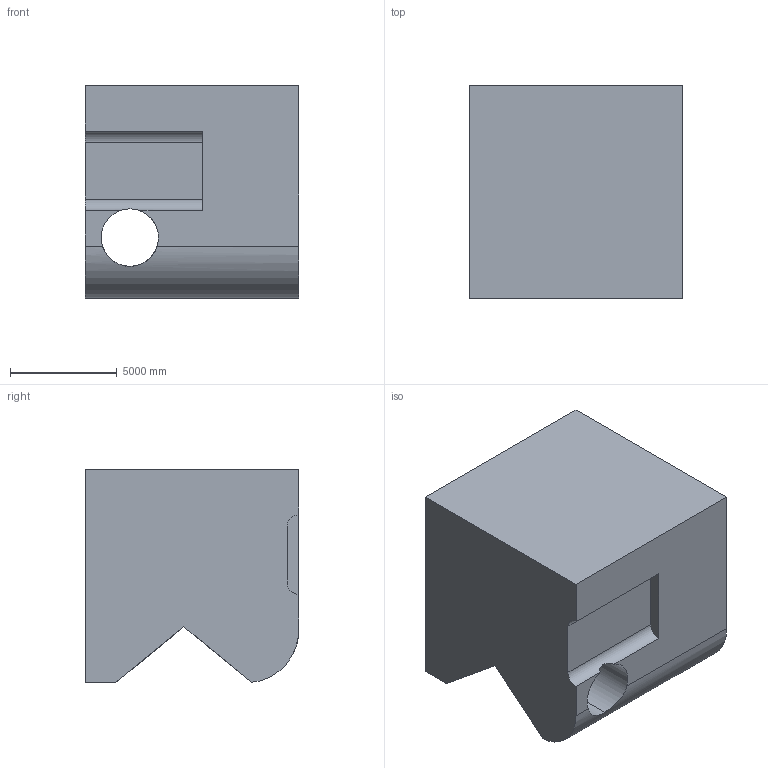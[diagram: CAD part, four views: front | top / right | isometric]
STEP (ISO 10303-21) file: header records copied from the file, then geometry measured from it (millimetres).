
FILE_DESCRIPTION (( 'STEP AP203' ), '1' );
FILE_NAME ('265.STEP', '2022-09-07T12:30:57', ( 'user' ), ( '' ), 'SwSTEP 2.0', 'SolidWorks 2021', '' );
FILE_SCHEMA (( 'CONFIG_CONTROL_DESIGN' ));
Length unit declared in the file: centimetre
Products named in the file (1): 265
Bounding box: 10000 x 10000 x 10000 mm (x, y, z)
Volume: 838743950269.3 mm3; surface area: 651222445.9 mm2
Topology: 1 solids, 1 shells, 16 faces, 51 edges, 34 vertices
Faces by surface type: plane 11, cylinder 5
Entity records: 868 total; most frequent: CARTESIAN_POINT 340, ORIENTED_EDGE 102, DIRECTION 87, EDGE_CURVE 51, VERTEX_POINT 34, LINE 33, VECTOR 33, AXIS2_PLACEMENT_3D 27
